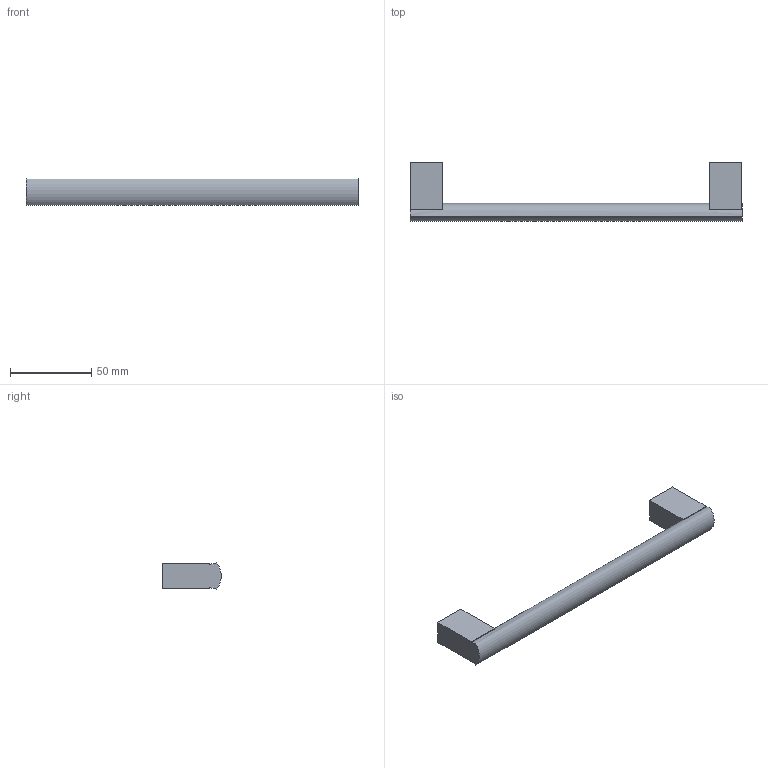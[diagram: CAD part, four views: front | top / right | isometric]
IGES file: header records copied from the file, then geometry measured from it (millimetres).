
Start section: Data from Parasolid IGES Translator 20.0.26, Copyright(c) 2006 Siemens P LM Software. All Rights Reserved.
Global section: file name: 115354.igs; native system: By Siemens PLM Incorporated; preprocessor: XPlus GENERIC/IGES 20.0.26; author: Noname; organization: Noname; date: 20230220.160622; units: millimetre
Bounding box: 204 x 35.96 x 16 mm (x, y, z)
Surface area: 13035.2 mm2 (no closed solid volume)
Topology: 0 solids, 0 shells, 22 faces, 102 edges, 100 vertices
Faces by surface type: extrusion 17, revolution 5
